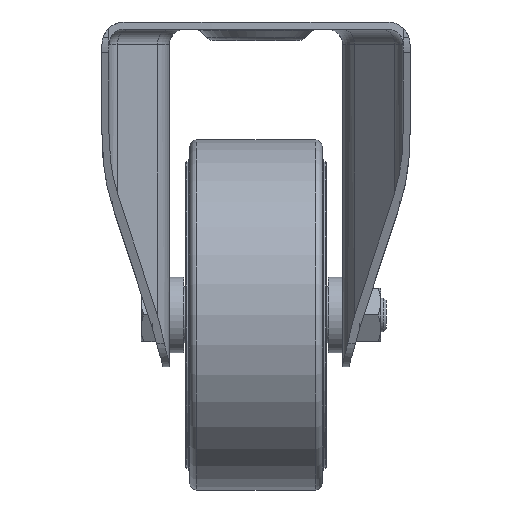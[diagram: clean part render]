
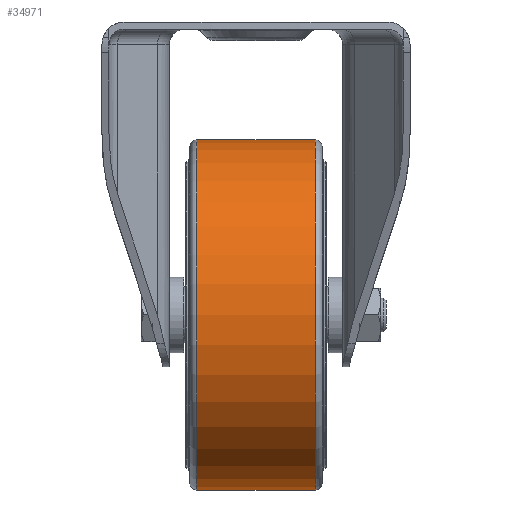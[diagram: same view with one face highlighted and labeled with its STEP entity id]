
A CAD part, top view. The second image highlights one B-rep face of the part: STEP entity #34971.
In plain terms, the highlighted cylindrical face has radius 62.5 mm (diameter 125 mm), a partial arc.
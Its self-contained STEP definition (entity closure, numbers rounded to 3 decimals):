
#27087=CARTESIAN_POINT('',(-21.127,0.,0.));
#27088=DIRECTION('',(1.,0.,0.));
#27089=DIRECTION('',(0.,1.,0.));
#27090=AXIS2_PLACEMENT_3D('',#27087,#27088,#27089);
#27107=DIRECTION('',(-1.,0.,0.));
#27108=VECTOR('',#27107,42.254);
#27109=CARTESIAN_POINT('',(21.127,62.5,0.));
#27110=LINE('',#27109,#27108);
#27111=DIRECTION('',(-1.,0.,0.));
#27112=VECTOR('',#27111,42.254);
#27113=CARTESIAN_POINT('',(21.127,-62.5,0.));
#27114=LINE('',#27113,#27112);
#27120=CARTESIAN_POINT('',(21.127,0.,0.));
#27121=DIRECTION('',(1.,0.,0.));
#27122=DIRECTION('',(0.,1.,0.));
#27123=AXIS2_PLACEMENT_3D('',#27120,#27121,#27122);
#30214=CARTESIAN_POINT('',(21.127,62.5,0.));
#30215=CARTESIAN_POINT('',(-21.127,62.5,0.));
#30216=VERTEX_POINT('',#30214);
#30217=VERTEX_POINT('',#30215);
#30218=CARTESIAN_POINT('',(21.127,-62.5,0.));
#30219=CARTESIAN_POINT('',(-21.127,-62.5,0.));
#30220=VERTEX_POINT('',#30218);
#30221=VERTEX_POINT('',#30219);
#34959=CARTESIAN_POINT('',(-27.5,0.,0.));
#34960=DIRECTION('',(1.,0.,0.));
#34961=DIRECTION('',(0.,-1.,0.));
#34962=AXIS2_PLACEMENT_3D('',#34959,#34960,#34961);
#34963=CYLINDRICAL_SURFACE('',#34962,62.5);
#34964=ORIENTED_EDGE('',*,*,#34949,.F.);
#34966=ORIENTED_EDGE('',*,*,#34965,.T.);
#34967=ORIENTED_EDGE('',*,*,#34952,.T.);
#34968=ORIENTED_EDGE('',*,*,#34923,.F.);
#34969=EDGE_LOOP('',(#34964,#34966,#34967,#34968));
#34970=FACE_OUTER_BOUND('',#34969,.F.);
#34971=ADVANCED_FACE('',(#34970),#34963,.T.);
#27091=CIRCLE('',#27090,62.5);
#27124=CIRCLE('',#27123,62.5);
#34923=EDGE_CURVE('',#30217,#30221,#27091,.T.);
#34949=EDGE_CURVE('',#30216,#30217,#27110,.T.);
#34952=EDGE_CURVE('',#30220,#30221,#27114,.T.);
#34965=EDGE_CURVE('',#30216,#30220,#27124,.T.);
